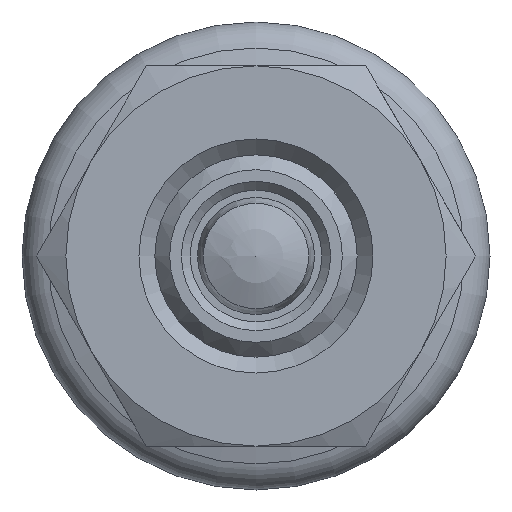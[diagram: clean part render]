
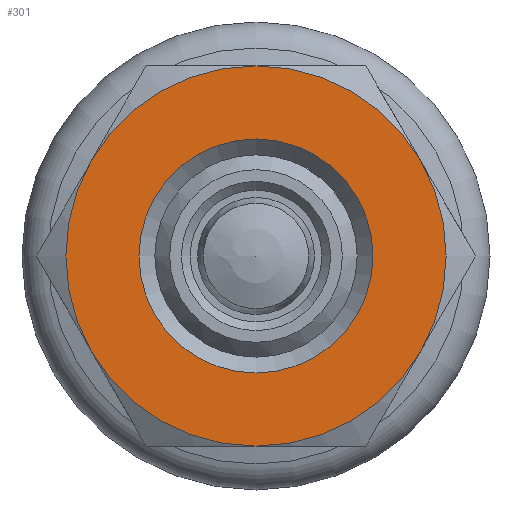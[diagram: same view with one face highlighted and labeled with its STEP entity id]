
A CAD part, front view. The second image highlights one B-rep face of the part: STEP entity #301.
In plain terms, the highlighted planar face has unit normal (0, -1, 0).
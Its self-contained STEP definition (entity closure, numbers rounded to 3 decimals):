
#301 = ADVANCED_FACE( '', ( #458, #459 ), #460, .F. );
#458 = FACE_BOUND( '', #652, .T. );
#459 = FACE_OUTER_BOUND( '', #653, .T. );
#460 = PLANE( '', #654 );
#652 = EDGE_LOOP( '', ( #1007 ) );
#653 = EDGE_LOOP( '', ( #1008, #1009, #1010, #1011, #1012, #1013 ) );
#654 = AXIS2_PLACEMENT_3D( '', #1014, #1015, #1016 );
#1007 = ORIENTED_EDGE( '', *, *, #1120, .F. );
#1008 = ORIENTED_EDGE( '', *, *, #1123, .T. );
#1009 = ORIENTED_EDGE( '', *, *, #1124, .T. );
#1010 = ORIENTED_EDGE( '', *, *, #1090, .T. );
#1011 = ORIENTED_EDGE( '', *, *, #1115, .T. );
#1012 = ORIENTED_EDGE( '', *, *, #1116, .T. );
#1013 = ORIENTED_EDGE( '', *, *, #1117, .T. );
#1014 = CARTESIAN_POINT( '', ( 6.5, 0., 0. ) );
#1015 = DIRECTION( '', ( 0., 1., 0. ) );
#1016 = DIRECTION( '', ( 0., 0., 1. ) );
#1090 = EDGE_CURVE( '', #1236, #1237, #1238, .T. );
#1115 = EDGE_CURVE( '', #1237, #1218, #1275, .T. );
#1116 = EDGE_CURVE( '', #1218, #1230, #1276, .T. );
#1117 = EDGE_CURVE( '', #1230, #1277, #1278, .T. );
#1120 = EDGE_CURVE( '', #1281, #1281, #1282, .T. );
#1123 = EDGE_CURVE( '', #1277, #1245, #1287, .T. );
#1124 = EDGE_CURVE( '', #1245, #1236, #1288, .T. );
#1218 = VERTEX_POINT( '', #1497 );
#1230 = VERTEX_POINT( '', #1531 );
#1236 = VERTEX_POINT( '', #1561 );
#1237 = VERTEX_POINT( '', #1562 );
#1238 = CIRCLE( '', #1563, 6.5 );
#1245 = VERTEX_POINT( '', #1583 );
#1275 = CIRCLE( '', #1683, 6.5 );
#1276 = CIRCLE( '', #1684, 6.5 );
#1277 = VERTEX_POINT( '', #1685 );
#1278 = CIRCLE( '', #1686, 6.5 );
#1281 = VERTEX_POINT( '', #1701 );
#1282 = CIRCLE( '', #1702, 4. );
#1287 = CIRCLE( '', #1707, 6.5 );
#1288 = CIRCLE( '', #1708, 6.5 );
#1497 = CARTESIAN_POINT( '', ( -6.5, 0., 0. ) );
#1531 = CARTESIAN_POINT( '', ( -3.25, 0., -5.629 ) );
#1561 = CARTESIAN_POINT( '', ( 3.25, 0., 5.629 ) );
#1562 = CARTESIAN_POINT( '', ( -3.25, 0., 5.629 ) );
#1563 = AXIS2_PLACEMENT_3D( '', #1808, #1809, #1810 );
#1583 = CARTESIAN_POINT( '', ( 6.5, 0., 0. ) );
#1683 = AXIS2_PLACEMENT_3D( '', #1835, #1836, #1837 );
#1684 = AXIS2_PLACEMENT_3D( '', #1838, #1839, #1840 );
#1685 = CARTESIAN_POINT( '', ( 3.25, 0., -5.629 ) );
#1686 = AXIS2_PLACEMENT_3D( '', #1841, #1842, #1843 );
#1701 = CARTESIAN_POINT( '', ( 0., 0., -4. ) );
#1702 = AXIS2_PLACEMENT_3D( '', #1844, #1845, #1846 );
#1707 = AXIS2_PLACEMENT_3D( '', #1853, #1854, #1855 );
#1708 = AXIS2_PLACEMENT_3D( '', #1856, #1857, #1858 );
#1808 = CARTESIAN_POINT( '', ( 0., 0., 0. ) );
#1809 = DIRECTION( '', ( 0., -1., 0. ) );
#1810 = DIRECTION( '', ( 0., 0., -1. ) );
#1835 = CARTESIAN_POINT( '', ( 0., 0., 0. ) );
#1836 = DIRECTION( '', ( 0., -1., 0. ) );
#1837 = DIRECTION( '', ( 0., 0., -1. ) );
#1838 = CARTESIAN_POINT( '', ( 0., 0., 0. ) );
#1839 = DIRECTION( '', ( 0., -1., 0. ) );
#1840 = DIRECTION( '', ( 0., 0., -1. ) );
#1841 = CARTESIAN_POINT( '', ( 0., 0., 0. ) );
#1842 = DIRECTION( '', ( 0., -1., 0. ) );
#1843 = DIRECTION( '', ( 0., 0., -1. ) );
#1844 = CARTESIAN_POINT( '', ( 0., 0., 0. ) );
#1845 = DIRECTION( '', ( 0., -1., 0. ) );
#1846 = DIRECTION( '', ( 0., 0., -1. ) );
#1853 = CARTESIAN_POINT( '', ( 0., 0., 0. ) );
#1854 = DIRECTION( '', ( 0., -1., 0. ) );
#1855 = DIRECTION( '', ( 0., 0., -1. ) );
#1856 = CARTESIAN_POINT( '', ( 0., 0., 0. ) );
#1857 = DIRECTION( '', ( 0., -1., 0. ) );
#1858 = DIRECTION( '', ( 0., 0., -1. ) );
